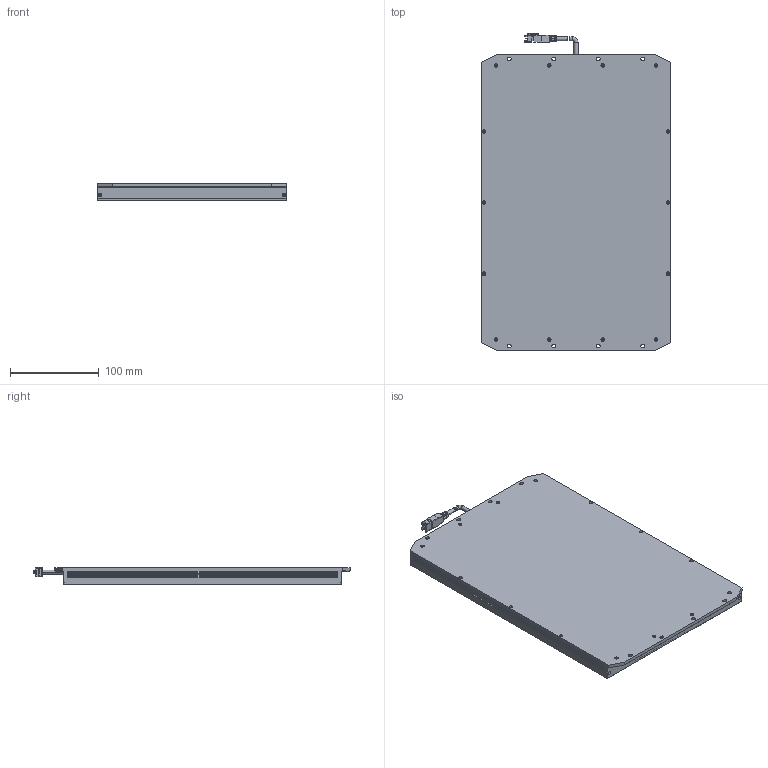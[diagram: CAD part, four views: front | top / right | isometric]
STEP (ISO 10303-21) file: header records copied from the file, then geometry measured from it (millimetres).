
FILE_DESCRIPTION((''),'2;1');
FILE_NAME('PRT0001','2023-11-21T14:23:33',('lizhoupeng'),(''),'CREO PARAMETRIC BY PTC INC, 2020044','CREO PARAMETRIC BY PTC INC, 2020044','');
FILE_SCHEMA(('CONFIG_CONTROL_DESIGN'));
Products named in the file (1): PRT0001
Bounding box: 213 x 355.65 x 19 mm (x, y, z)
Volume: 1276851.8 mm3; surface area: 186280 mm2
Topology: 2 solids, 88 shells, 2671 faces, 6504 edges, 3991 vertices
Faces by surface type: plane 1496, cylinder 560, extrusion 293, cone 224, torus 78, bspline 12, sphere 8
Entity records: 79492 total; most frequent: CARTESIAN_POINT 18192, ORIENTED_EDGE 12856, DIRECTION 11909, EDGE_CURVE 6428, VECTOR 4465, LINE 4172, VERTEX_POINT 3991, AXIS2_PLACEMENT_3D 3722
